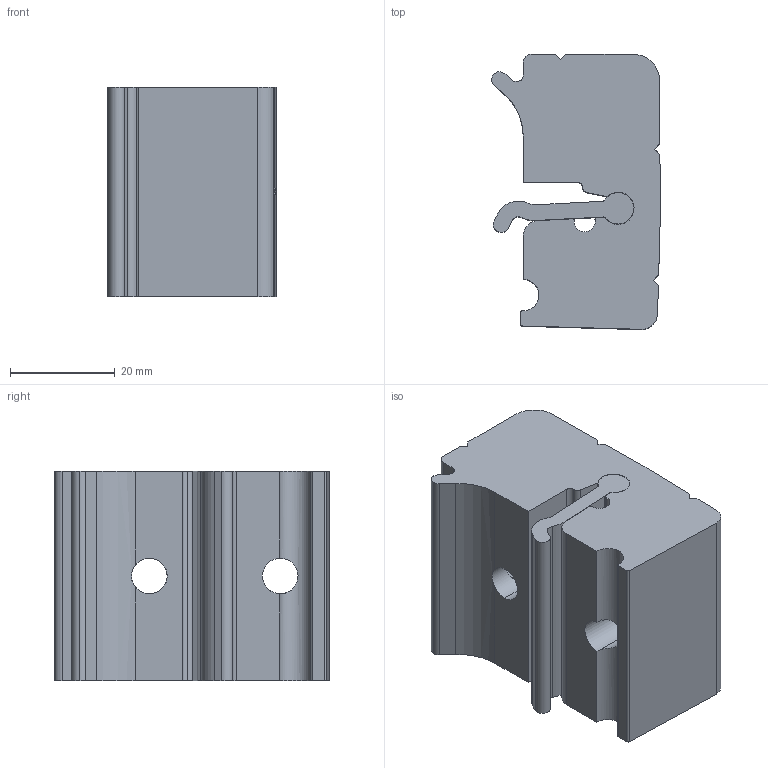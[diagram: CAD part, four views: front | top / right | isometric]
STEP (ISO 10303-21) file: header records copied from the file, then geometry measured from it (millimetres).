
FILE_DESCRIPTION (( 'STEP AP214' ), '1' );
FILE_NAME ('FABER - R1 SL32-SL40.STEP', '2017-04-06T08:23:49', ( '' ), ( '' ), 'SwSTEP 2.0', 'SolidWorks 2016', '' );
FILE_SCHEMA (( 'AUTOMOTIVE_DESIGN' ));
Length unit declared in the file: millimetre
Products named in the file (1): FABER - R1 SL32-SL40
Bounding box: 32.17 x 52.5 x 40 mm (x, y, z)
Volume: 50138.2 mm3; surface area: 14726.1 mm2
Topology: 2 solids, 2 shells, 81 faces, 239 edges, 154 vertices
Faces by surface type: cylinder 41, plane 38, cone 2
Entity records: 3520 total; most frequent: CARTESIAN_POINT 612, ORIENTED_EDGE 478, DIRECTION 447, EDGE_CURVE 239, AXIS2_PLACEMENT_3D 155, VERTEX_POINT 154, VECTOR 137, LINE 137
